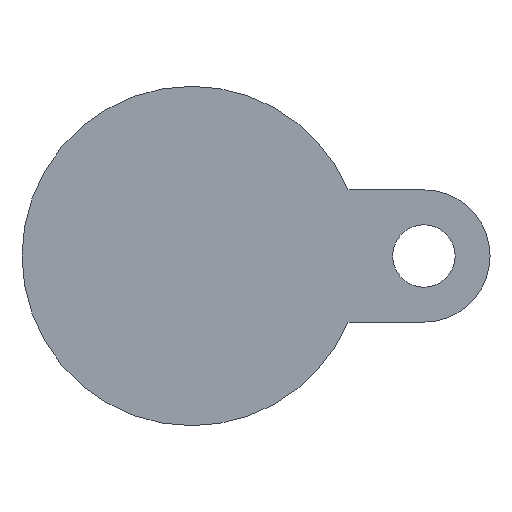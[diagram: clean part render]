
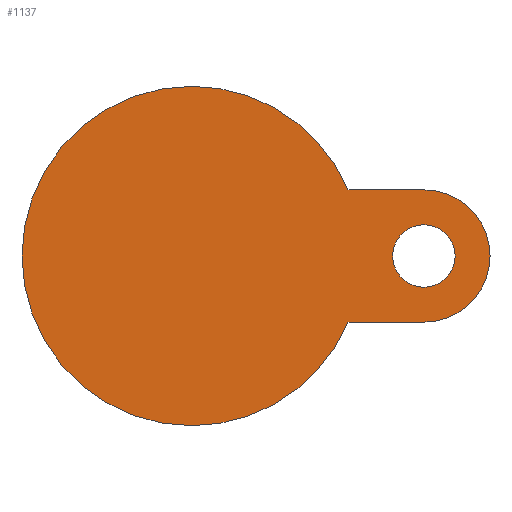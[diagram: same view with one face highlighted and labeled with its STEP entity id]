
A CAD part, front view. The second image highlights one B-rep face of the part: STEP entity #1137.
In plain terms, the highlighted planar face has unit normal (0, -1, 0).
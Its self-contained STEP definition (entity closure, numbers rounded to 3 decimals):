
#84 = EDGE_CURVE ( 'NONE', #3885, #1716, #2109, .T. ) ;
#201 = VERTEX_POINT ( 'NONE', #1618 ) ;
#227 = EDGE_CURVE ( 'NONE', #3193, #3061, #3969, .T. ) ;
#229 = AXIS2_PLACEMENT_3D ( 'NONE', #3962, #4768, #3906 ) ;
#304 = CARTESIAN_POINT ( 'NONE',  ( 65., -22., 0. ) ) ;
#329 = DIRECTION ( 'NONE',  ( 0., 0., -1. ) ) ;
#368 = DIRECTION ( 'NONE',  ( 0., 1., 0. ) ) ;
#400 = AXIS2_PLACEMENT_3D ( 'NONE', #1127, #2849, #708 ) ;
#437 = CIRCLE ( 'NONE', #2408, 47.5 ) ;
#526 = LINE ( 'NONE', #556, #1163 ) ;
#556 = CARTESIAN_POINT ( 'NONE',  ( 28.666, -22., 18.5 ) ) ;
#697 = AXIS2_PLACEMENT_3D ( 'NONE', #3481, #5435, #3875 ) ;
#708 = DIRECTION ( 'NONE',  ( 0., 0., -1. ) ) ;
#865 = EDGE_LOOP ( 'NONE', ( #1310, #5295, #3602, #5005, #3923, #3469 ) ) ;
#930 = ORIENTED_EDGE ( 'NONE', *, *, #3503, .F. ) ;
#954 = CARTESIAN_POINT ( 'NONE',  ( 65., -22., -18.5 ) ) ;
#1100 = PLANE ( 'NONE',  #400 ) ;
#1127 = CARTESIAN_POINT ( 'NONE',  ( 0., -22., 0. ) ) ;
#1137 = ADVANCED_FACE ( 'NONE', ( #3202, #1548 ), #1100, .T. ) ;
#1158 = DIRECTION ( 'NONE',  ( 0., 1., 0. ) ) ;
#1163 = VECTOR ( 'NONE', #2239, 1000. ) ;
#1170 = DIRECTION ( 'NONE',  ( 0., 0., 1. ) ) ;
#1310 = ORIENTED_EDGE ( 'NONE', *, *, #2487, .T. ) ;
#1372 = LINE ( 'NONE', #954, #2694 ) ;
#1474 = CARTESIAN_POINT ( 'NONE',  ( 65., -22., -18.5 ) ) ;
#1548 = FACE_BOUND ( 'NONE', #1949, .T. ) ;
#1579 = CARTESIAN_POINT ( 'NONE',  ( 0., -22., 0. ) ) ;
#1618 = CARTESIAN_POINT ( 'NONE',  ( 43.749, -22., -18.5 ) ) ;
#1670 = CARTESIAN_POINT ( 'NONE',  ( 0., -22., -47.5 ) ) ;
#1716 = VERTEX_POINT ( 'NONE', #4661 ) ;
#1818 = CARTESIAN_POINT ( 'NONE',  ( 65., -22., 8.75 ) ) ;
#1949 = EDGE_LOOP ( 'NONE', ( #930, #3085 ) ) ;
#1960 = CIRCLE ( 'NONE', #3201, 47.5 ) ;
#2109 = CIRCLE ( 'NONE', #3351, 47.5 ) ;
#2239 = DIRECTION ( 'NONE',  ( -1., 0., 0. ) ) ;
#2312 = DIRECTION ( 'NONE',  ( 0., 0., 1. ) ) ;
#2408 = AXIS2_PLACEMENT_3D ( 'NONE', #1579, #1158, #3286 ) ;
#2487 = EDGE_CURVE ( 'NONE', #2583, #1716, #526, .T. ) ;
#2583 = VERTEX_POINT ( 'NONE', #4289 ) ;
#2672 = DIRECTION ( 'NONE',  ( 1., 0., 0. ) ) ;
#2694 = VECTOR ( 'NONE', #2672, 1000. ) ;
#2760 = DIRECTION ( 'NONE',  ( 0., 1., 0. ) ) ;
#2849 = DIRECTION ( 'NONE',  ( 0., -1., 0. ) ) ;
#3052 = EDGE_CURVE ( 'NONE', #201, #4330, #1372, .T. ) ;
#3061 = VERTEX_POINT ( 'NONE', #4031 ) ;
#3085 = ORIENTED_EDGE ( 'NONE', *, *, #227, .F. ) ;
#3112 = CIRCLE ( 'NONE', #697, 18.5 ) ;
#3193 = VERTEX_POINT ( 'NONE', #1818 ) ;
#3201 = AXIS2_PLACEMENT_3D ( 'NONE', #5248, #2760, #2312 ) ;
#3202 = FACE_OUTER_BOUND ( 'NONE', #865, .T. ) ;
#3286 = DIRECTION ( 'NONE',  ( 0., 0., 1. ) ) ;
#3329 = VERTEX_POINT ( 'NONE', #1670 ) ;
#3351 = AXIS2_PLACEMENT_3D ( 'NONE', #4218, #368, #1170 ) ;
#3469 = ORIENTED_EDGE ( 'NONE', *, *, #5403, .T. ) ;
#3481 = CARTESIAN_POINT ( 'NONE',  ( 65., -22., 0. ) ) ;
#3503 = EDGE_CURVE ( 'NONE', #3061, #3193, #4820, .T. ) ;
#3602 = ORIENTED_EDGE ( 'NONE', *, *, #5323, .F. ) ;
#3875 = DIRECTION ( 'NONE',  ( 0., 0., -1. ) ) ;
#3885 = VERTEX_POINT ( 'NONE', #4625 ) ;
#3906 = DIRECTION ( 'NONE',  ( 0., 0., -1. ) ) ;
#3923 = ORIENTED_EDGE ( 'NONE', *, *, #3052, .T. ) ;
#3962 = CARTESIAN_POINT ( 'NONE',  ( 65., -22., 0. ) ) ;
#3969 = CIRCLE ( 'NONE', #229, 8.75 ) ;
#4023 = AXIS2_PLACEMENT_3D ( 'NONE', #304, #4070, #329 ) ;
#4031 = CARTESIAN_POINT ( 'NONE',  ( 65., -22., -8.75 ) ) ;
#4070 = DIRECTION ( 'NONE',  ( 0., -1., 0. ) ) ;
#4218 = CARTESIAN_POINT ( 'NONE',  ( 0., -22., 0. ) ) ;
#4289 = CARTESIAN_POINT ( 'NONE',  ( 65., -22., 18.5 ) ) ;
#4330 = VERTEX_POINT ( 'NONE', #1474 ) ;
#4625 = CARTESIAN_POINT ( 'NONE',  ( 0., -22., 47.5 ) ) ;
#4661 = CARTESIAN_POINT ( 'NONE',  ( 43.749, -22., 18.5 ) ) ;
#4768 = DIRECTION ( 'NONE',  ( 0., -1., 0. ) ) ;
#4820 = CIRCLE ( 'NONE', #4023, 8.75 ) ;
#4993 = EDGE_CURVE ( 'NONE', #201, #3329, #1960, .T. ) ;
#5005 = ORIENTED_EDGE ( 'NONE', *, *, #4993, .F. ) ;
#5248 = CARTESIAN_POINT ( 'NONE',  ( 0., -22., 0. ) ) ;
#5295 = ORIENTED_EDGE ( 'NONE', *, *, #84, .F. ) ;
#5323 = EDGE_CURVE ( 'NONE', #3329, #3885, #437, .T. ) ;
#5403 = EDGE_CURVE ( 'NONE', #4330, #2583, #3112, .T. ) ;
#5435 = DIRECTION ( 'NONE',  ( 0., -1., 0. ) ) ;
